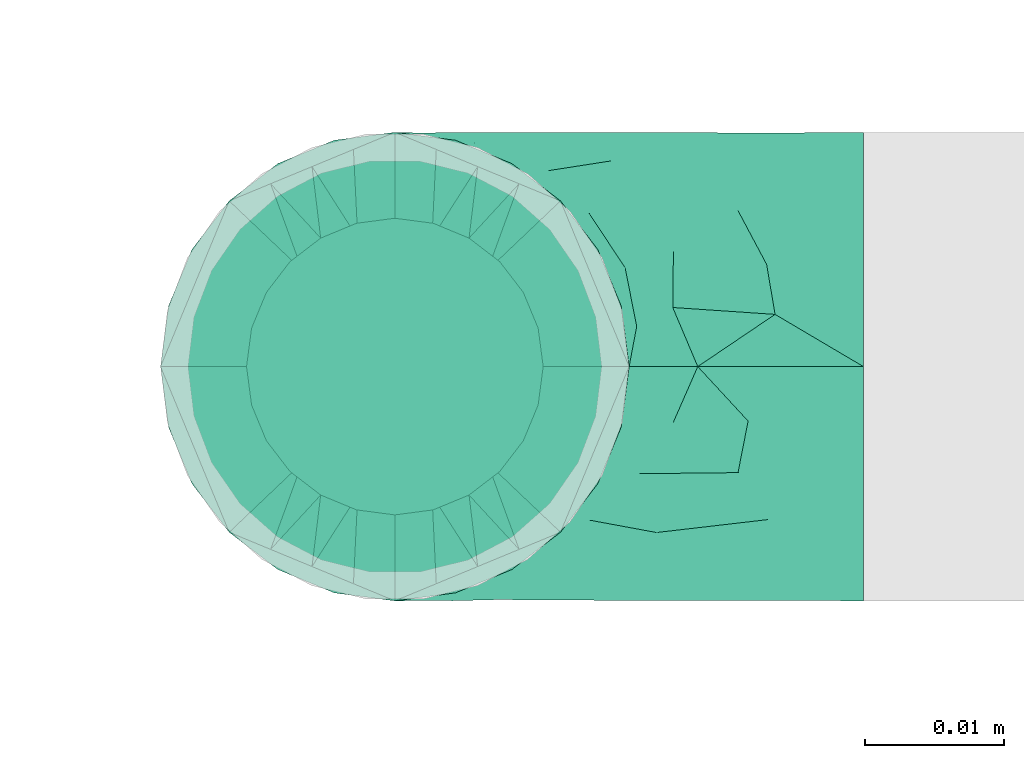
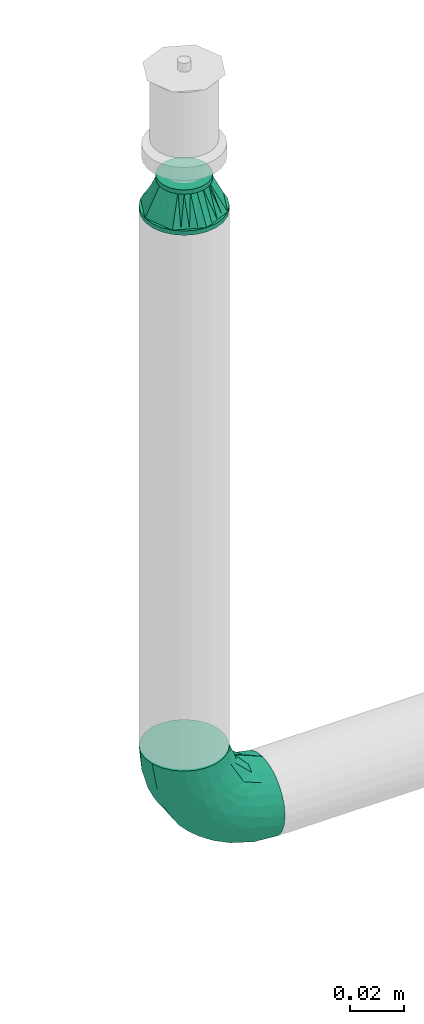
# One storey, part 48 of 157: 2 flow fittings.
"""IFC2X3 building model written with IfcOpenShell, lengths in millimetres."""

from ifc_helpers import new_model, entity, si_unit, converted_unit, derived_unit, direction, frame, origin_with_axes, place, context, subcontext, project, spatial, open_shell, surface_model, source, transform, mapped, type_object, element, save


model = new_model("IFC2X3")

# Units and contexts
model_context = context("Model", 3, precision=0.01, world=frame((0.0, 4.29681676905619e-09, 0.0)), true_north=direction((4.01073788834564e-13, 1.0)))
plan_context = context("Plan", 3, precision=0.01, world=frame((0.0, 4.29681676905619e-09, 0.0)), true_north=direction((4.01073788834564e-13, 1.0)))
body_context = subcontext(model_context, "Body", "Model", "MODEL_VIEW")
ifc_project = project(units=[converted_unit("PLANEANGLEUNIT", "DEGREE", entity("IfcPositiveLengthMeasure", 0.0174532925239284), si_unit("PLANEANGLEUNIT", "RADIAN"), dimensions=[0, 0, 0, 0, 0, 0, 0]), si_unit("AREAUNIT", "SQUARE_METRE"), si_unit("LENGTHUNIT", "METRE", prefix="MILLI"), si_unit("MASSUNIT", "GRAM", prefix="KILO"), si_unit("POWERUNIT", "WATT"), si_unit("PRESSUREUNIT", "PASCAL"), si_unit("FORCEUNIT", "NEWTON", prefix="KILO"), si_unit("ELECTRICCURRENTUNIT", "AMPERE"), si_unit("THERMODYNAMICTEMPERATUREUNIT", "DEGREE_CELSIUS"), si_unit("TIMEUNIT", "SECOND"), si_unit("VOLUMEUNIT", "CUBIC_METRE"), derived_unit("LINEARVELOCITYUNIT", [(si_unit("LENGTHUNIT", "METRE"), 1), (si_unit("TIMEUNIT", "SECOND"), -1)]), derived_unit("VOLUMETRICFLOWRATEUNIT", [(si_unit("VOLUMEUNIT", "CUBIC_METRE"), 1), (si_unit("TIMEUNIT", "SECOND"), -1)]), derived_unit("THERMALTRANSMITTANCEUNIT", [(si_unit("POWERUNIT", "WATT"), 1), (si_unit("THERMODYNAMICTEMPERATUREUNIT", "KELVIN"), -1), (si_unit("AREAUNIT", "SQUARE_METRE"), -1)])], contexts=[model_context, plan_context])

# Site, building, storey
site_placement = place(None, frame((0.0, -4.29681676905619e-09, 0.0), z_axis=(0.0, 0.0, 1.0), x_axis=(1.0, 0.0, 0.0)))
site = spatial("IfcSite", under=ifc_project, at=site_placement, CompositionType="ELEMENT")
building_placement = place(site_placement, frame((0.0, 4.29681676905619e-09, 0.0), z_axis=(0.0, 0.0, 1.0), x_axis=(1.0, 0.0, 0.0)))
building = spatial("IfcBuilding", under=site, at=building_placement, Name="mc-building", CompositionType="ELEMENT")
storey_placement = place(building_placement, frame((0.0, 0.0, 204000.0), z_axis=(0.0, 0.0, 1.0), x_axis=(1.0, 0.0, 0.0)))
storey = spatial("IfcBuildingStorey", under=building, at=storey_placement, Name="Nivå D", CompositionType="ELEMENT", Elevation=204000.0)

# Flow fittings
pipe_fitting_type_1 = type_object("IfcPipeFittingType", Name="magi_pipe_fe_elbow_short_001", PredefinedType="BEND")
shared_shape_1 = source(origin_with_axes(), body_context, "Body", "SurfaceModel", [
    surface_model("IfcShellBasedSurfaceModel", [(-33.8, 8.45, -14.63583), (-33.8, 4.37404, -16.32415), (-33.8, 11.9501, -11.9501), (-33.8, -11.9501, -11.9501), (-33.8, -14.63583, -8.45), (-33.8, -8.45, -14.63583), (-33.8, 0.0, -16.9), (-33.8, -4.37404, -16.32415), (-33.8, -4.37404, 16.32415), (-33.8, 0.0, 16.9), (-33.8, -8.45, 14.63583), (-33.8, 16.32415, -4.37404), (-33.8, 14.63583, -8.45), (-33.8, -16.32415, -4.37404), (-33.8, -16.9, 0.0), (-33.8, -16.32415, 4.37404), (-33.8, 11.9501, 11.9501), (-33.8, 14.63583, 8.45), (-33.8, 16.32415, 4.37404), (-33.8, 4.37404, 16.32415), (-33.8, 8.45, 14.63583), (-33.8, -14.63583, 8.45), (-33.8, -11.9501, 11.9501), (-33.8, 16.9, 0.0), (-11.9501, 33.8, -11.9501), (0.0, 33.8, -16.9), (-4.37404, 33.8, -16.32415), (-8.45, 33.8, -14.63583), (-14.63583, 33.8, -8.45), (-16.32415, 33.8, -4.37404), (14.63583, 33.8, -8.45), (8.45, 33.8, 14.63583), (16.32415, 33.8, -4.37404), (8.45, 33.8, -14.63583), (11.9501, 33.8, -11.9501), (4.37404, 33.8, -16.32415), (16.32415, 33.8, 4.37404), (16.9, 33.8, 0.0), (-11.9501, 33.8, 11.9501), (-16.32415, 33.8, 4.37404), (-14.63583, 33.8, 8.45), (-8.45, 33.8, 14.63583), (-4.37404, 33.8, 16.32415), (11.9501, 33.8, 11.9501), (14.63583, 33.8, 8.45), (0.0, 33.8, 16.9), (4.37404, 33.8, 16.32415), (-16.9, 33.8, 0.0), (-24.79389, -13.12945, 9.48721), (-22.19287, -9.75018, 12.59315), (-24.09897, -14.97035, 0.0), (-14.93934, -10.76256, 8.5297), (-22.46095, -14.75051, 5.27077), (14.75051, 22.46094, 5.27077), (11.9251, 13.23888, 4.33236), (13.04069, 14.39795, 0.0), (7.71387, 13.68847, 11.55891), (9.75018, 22.19287, 12.59315), (4.10169, 13.0571, 14.04018), (-24.84007, -6.39063, 15.2048), (-25.81779, -2.23879, 16.61097), (-23.66549, 2.59054, 16.87119), (-26.50418, 14.06512, 11.08152), (-24.21253, 17.66365, 7.72657), (-29.58514, 15.86957, 7.00283), (-6.17382, -7.5455, 0.0), (-13.23888, -11.9251, 4.33236), (-14.39795, -13.04069, 0.0), (-17.81434, 18.87373, 11.97104), (-6.30846, 29.15138, 15.82987), (-2.31622, 25.28002, 16.85849), (-29.23923, 10.23435, 13.77053), (-1.45439, -2.85688, 7.61475), (-0.28326, 0.34872, 10.09509), (-5.74484, -4.04709, 10.4122), (-4.41137, 11.31918, 16.59407), (-8.39727, 3.10034, 15.7812), (-1.72649, 9.1306, 15.53089), (-17.39909, 24.75344, 7.64977), (-26.19233, 20.0512, 0.0), (-28.14518, 17.29657, 4.25857), (-26.05147, 6.6281, 15.96447), (-5.87354, 16.61944, 16.86968), (-12.51807, 12.51807, 16.48937), (-10.06312, 7.38516, 16.81295), (-3.01882, 3.01882, 13.81718), (-13.0571, -4.10169, 14.04018), (-16.82553, -0.15166, 16.38038), (10.76256, 14.93934, 8.5297), (13.12945, 24.79389, 9.48721), (6.39063, 24.84007, 15.2048), (2.23879, 25.81779, 16.61097), (-13.68847, -7.71387, 11.55891), (14.97035, 24.09897, 0.0), (-7.30894, 22.89991, 16.09489), (-10.67958, 26.17414, 14.008), (-12.78295, 18.26924, 15.06066), (-13.88562, 22.45231, 12.93244), (-18.04944, 15.16501, 14.04434), (-23.11658, 20.08178, 4.02986), (-21.84989, 21.84989, 0.0), (-18.55817, 25.48277, 3.93065), (-13.95142, 26.94732, 11.03289), (-18.57098, 7.23906, 16.59756), (-16.58335, 4.14122, 16.89279), (-17.96666, 11.46709, 15.63151), (-9.84453, 17.54304, 16.18938), (0.15166, 16.82553, 16.38038), (-23.27207, 11.47201, 14.23154), (3.84842, 5.86994, 10.70473), (-8.0212, -7.54413, 7.93275), (1.00345, -2.19508, 4.57414), (5.13203, 3.01004, 5.90201), (5.24161, 1.7543, 2.53265), (8.70457, 7.04947, 3.99182), (-20.0512, 26.19233, 0.0), (8.4852, 8.76699, 7.09296), (-4.55488, -6.72064, 4.90681), (2.05031, -2.05031, 0.0), (7.5455, 6.17382, 0.0), (-26.75399, 2.1369, -16.845), (-14.61995, 24.73803, -11.27736), (-28.45274, -13.45335, -9.81895), (-26.00469, 6.63555, -15.96645), (-23.06726, 20.04573, -4.26202), (-13.80647, -4.26506, -14.17873), (-14.67501, -0.21081, -16.07388), (-6.7902, -0.2828, -13.8478), (-24.53586, 11.08096, -14.13417), (-26.72048, 14.00837, -11.05776), (10.0967, 24.44989, -12.75976), (5.83237, 21.40218, -15.03047), (6.66249, 28.54238, -15.38093), (-20.38182, 15.48705, -12.74596), (12.53268, 21.23441, -9.15363), (12.54494, 15.67504, -5.54878), (9.7522, 12.89279, -8.66343), (-15.65186, 19.64213, -13.01327), (-12.03528, 20.66498, -14.67665), (-15.61907, 15.61906, -14.83879), (-25.56551, -15.26206, 0.0), (-24.65452, -15.12934, -5.50955), (13.45335, 28.45274, -9.81895), (15.12934, 24.65452, -5.50955), (-7.35442, -8.31014, -5.65563), (-15.67504, -12.54494, -5.54878), (-24.44989, -10.0967, -12.75976), (0.16522, 0.41303, -9.71728), (-5.70658, -5.33066, -8.89288), (-5.13869, -2.37198, -11.53565), (-21.23441, -12.53268, -9.15363), (0.71146, 7.93863, -14.09382), (0.21081, 14.67501, -16.07388), (3.49291, 14.42772, -14.76381), (-24.89911, -2.13088, -16.591), (-28.54238, -6.66249, -15.38093), (-18.44386, -7.71663, -13.26957), (2.13088, 24.89911, -16.591), (-28.64342, 17.44413, -2.89318), (1.70017, -1.28722, -5.09504), (-16.57067, 26.81947, -7.36596), (-17.69055, 27.4263, -3.76405), (-12.89279, -9.7522, -8.66343), (-5.96611, 5.96611, -15.95814), (-20.53709, 20.09345, -8.28985), (-2.1369, 26.75399, -16.845), (-6.89872, 24.58781, -16.02578), (-10.60739, 26.53157, -13.98044), (-21.40218, -5.83237, -15.03047), (2.93192, 5.89627, -11.55917), (6.89393, 12.61842, -11.82233), (5.58056, 5.95325, -8.79455), (-3.99512, 18.61798, -16.89635), (8.31014, 7.35442, -5.65563), (-9.1383, 9.86148, -16.89041), (-9.99983, 16.02119, -16.39699), (-16.68576, 9.78031, -16.34199), (-27.01915, 16.61158, -7.12979), (15.26206, 25.56551, 0.0), (-18.61798, 3.99512, -16.89635), (-19.37495, 27.82495, 0.0), (-12.61842, -6.89393, -11.82233), (-18.84705, 19.14018, -10.96545)], [open_shell([[[0, 1, 2]], [[3, 4, 5]], [[6, 7, 5]], [[8, 9, 10]], [[1, 6, 2]], [[11, 12, 2]], [[4, 2, 6]], [[2, 13, 10]], [[5, 4, 6]], [[2, 4, 13]], [[14, 15, 13]], [[11, 2, 16]], [[11, 17, 18]], [[11, 16, 17]], [[19, 20, 16]], [[16, 2, 10]], [[19, 16, 10]], [[21, 22, 15]], [[22, 13, 15]], [[22, 10, 13]], [[10, 9, 19]], [[11, 18, 23]], [[24, 25, 26]], [[24, 26, 27]], [[24, 28, 29]], [[25, 24, 30]], [[31, 32, 24]], [[33, 30, 34]], [[33, 35, 25]], [[25, 30, 33]], [[32, 30, 24]], [[32, 36, 37]], [[38, 24, 29]], [[39, 40, 29]], [[40, 38, 29]], [[38, 41, 42]], [[38, 31, 24]], [[31, 38, 42]], [[36, 43, 44]], [[36, 32, 43]], [[31, 45, 46]], [[32, 31, 43]], [[42, 45, 31]], [[39, 29, 47]], [[22, 48, 49]], [[15, 14, 50]], [[51, 48, 52]], [[53, 54, 55]], [[48, 22, 21]], [[15, 52, 21]], [[56, 57, 58]], [[49, 10, 22]], [[49, 59, 10]], [[9, 60, 61]], [[62, 63, 64]], [[65, 66, 67]], [[57, 43, 31]], [[62, 68, 63]], [[42, 69, 70]], [[20, 71, 16]], [[8, 60, 9]], [[72, 73, 74]], [[75, 76, 77]], [[16, 62, 17]], [[40, 39, 78]], [[79, 23, 80]], [[64, 18, 17]], [[9, 61, 19]], [[19, 81, 20]], [[82, 83, 84]], [[74, 85, 86]], [[59, 86, 87]], [[88, 89, 57]], [[90, 31, 46]], [[44, 53, 36]], [[46, 45, 91]], [[54, 53, 88]], [[44, 89, 53]], [[92, 86, 49]], [[89, 44, 43]], [[10, 59, 8]], [[53, 55, 93]], [[93, 36, 53]], [[66, 52, 67]], [[94, 82, 70]], [[95, 96, 94]], [[97, 98, 96]], [[79, 99, 100]], [[41, 38, 95]], [[101, 100, 99]], [[68, 78, 63]], [[42, 41, 69]], [[23, 18, 80]], [[95, 94, 69]], [[78, 101, 99]], [[38, 102, 95]], [[70, 45, 42]], [[97, 95, 102]], [[15, 50, 52]], [[90, 57, 31]], [[57, 90, 58]], [[81, 19, 61]], [[103, 104, 84]], [[105, 81, 103]], [[38, 40, 102]], [[106, 96, 83]], [[94, 106, 82]], [[91, 70, 107]], [[71, 62, 16]], [[62, 108, 98]], [[86, 59, 49]], [[67, 52, 50]], [[60, 59, 87]], [[92, 49, 51]], [[86, 85, 76]], [[91, 90, 46]], [[37, 36, 93]], [[107, 77, 58]], [[107, 58, 90]], [[58, 85, 109]], [[110, 74, 92]], [[72, 74, 110]], [[66, 51, 52]], [[72, 111, 112]], [[113, 114, 112]], [[56, 88, 57]], [[52, 48, 21]], [[49, 48, 51]], [[57, 89, 43]], [[53, 89, 88]], [[103, 81, 61]], [[71, 81, 108]], [[18, 64, 80]], [[63, 78, 99]], [[47, 115, 101]], [[101, 115, 100]], [[40, 78, 102]], [[68, 102, 78]], [[97, 96, 95]], [[105, 98, 108]], [[103, 84, 83]], [[107, 70, 82]], [[76, 84, 87]], [[82, 84, 75]], [[70, 91, 45]], [[90, 91, 107]], [[59, 60, 8]], [[61, 60, 87]], [[73, 85, 74]], [[109, 112, 116]], [[103, 61, 104]], [[105, 103, 83]], [[96, 105, 83]], [[81, 105, 108]], [[96, 98, 105]], [[62, 98, 68]], [[61, 87, 104]], [[87, 84, 104]], [[86, 76, 87]], [[77, 76, 85]], [[58, 77, 85]], [[75, 77, 107]], [[82, 75, 107]], [[76, 75, 84]], [[81, 71, 20]], [[62, 71, 108]], [[95, 69, 41]], [[70, 69, 94]], [[62, 64, 17]], [[80, 63, 99]], [[63, 80, 64]], [[80, 99, 79]], [[66, 65, 117]], [[110, 66, 117]], [[112, 114, 116]], [[118, 117, 65]], [[110, 92, 51]], [[112, 111, 113]], [[119, 55, 54]], [[74, 86, 92]], [[58, 109, 56]], [[116, 56, 109]], [[66, 110, 51]], [[72, 110, 117]], [[111, 72, 117]], [[73, 112, 109]], [[117, 118, 111]], [[113, 111, 118]], [[118, 119, 113]], [[114, 119, 54]], [[119, 114, 113]], [[116, 54, 88]], [[54, 116, 114]], [[116, 88, 56]], [[112, 73, 72]], [[85, 73, 109]], [[78, 39, 101]], [[47, 101, 39]], [[102, 68, 97]], [[97, 68, 98]], [[82, 106, 83]], [[94, 96, 106]], [[1, 120, 6]], [[28, 24, 121]], [[3, 122, 4]], [[0, 123, 1]], [[100, 124, 79]], [[125, 126, 127]], [[128, 2, 129]], [[130, 131, 132]], [[128, 129, 133]], [[134, 135, 136]], [[137, 138, 139]], [[128, 0, 2]], [[67, 140, 141]], [[134, 142, 143]], [[141, 13, 4]], [[144, 65, 145]], [[146, 3, 5]], [[147, 148, 149]], [[145, 141, 150]], [[151, 152, 153]], [[154, 7, 6]], [[5, 155, 146]], [[150, 146, 156]], [[155, 5, 7]], [[143, 135, 134]], [[35, 157, 25]], [[23, 79, 158]], [[148, 159, 144]], [[160, 161, 29]], [[145, 162, 144]], [[163, 152, 151]], [[29, 28, 160]], [[121, 164, 160]], [[33, 34, 130]], [[25, 165, 26]], [[26, 165, 166]], [[142, 34, 30]], [[24, 27, 167]], [[124, 161, 164]], [[157, 35, 132]], [[155, 154, 168]], [[123, 0, 128]], [[169, 170, 171]], [[172, 157, 152]], [[26, 166, 27]], [[132, 35, 33]], [[142, 130, 34]], [[168, 154, 126]], [[136, 135, 173]], [[133, 137, 139]], [[2, 12, 129]], [[170, 131, 130]], [[30, 32, 143]], [[172, 174, 175]], [[176, 123, 128]], [[158, 177, 11]], [[135, 55, 119]], [[167, 27, 166]], [[175, 166, 172]], [[137, 167, 138]], [[122, 141, 4]], [[140, 14, 13]], [[32, 37, 178]], [[170, 130, 134]], [[152, 157, 131]], [[165, 157, 172]], [[153, 170, 151]], [[152, 163, 174]], [[168, 125, 156]], [[122, 146, 150]], [[120, 154, 6]], [[179, 174, 126]], [[179, 126, 154]], [[126, 163, 127]], [[162, 145, 150]], [[140, 13, 141]], [[32, 178, 143]], [[55, 143, 178]], [[177, 129, 12]], [[128, 133, 139]], [[176, 128, 139]], [[120, 123, 179]], [[121, 160, 28]], [[161, 100, 180]], [[166, 175, 138]], [[121, 24, 167]], [[161, 47, 29]], [[79, 124, 158]], [[124, 164, 177]], [[161, 124, 100]], [[136, 171, 170]], [[127, 163, 151]], [[147, 171, 159]], [[148, 144, 162]], [[127, 151, 169]], [[127, 181, 125]], [[129, 177, 164]], [[12, 11, 177]], [[159, 65, 144]], [[67, 141, 145]], [[143, 55, 135]], [[135, 119, 173]], [[123, 120, 1]], [[154, 120, 179]], [[157, 165, 25]], [[166, 165, 172]], [[172, 152, 174]], [[176, 139, 175]], [[126, 174, 163]], [[176, 174, 179]], [[174, 176, 175]], [[123, 176, 179]], [[150, 181, 162]], [[127, 149, 181]], [[181, 148, 162]], [[159, 148, 147]], [[171, 136, 173]], [[170, 134, 136]], [[159, 171, 173]], [[171, 147, 169]], [[169, 147, 149]], [[151, 170, 169]], [[164, 182, 129]], [[182, 121, 137]], [[181, 149, 148]], [[169, 149, 127]], [[182, 137, 133]], [[167, 137, 121]], [[166, 138, 167]], [[175, 139, 138]], [[129, 182, 133]], [[121, 182, 164]], [[161, 160, 164]], [[47, 161, 180]], [[177, 158, 124]], [[23, 158, 11]], [[130, 132, 33]], [[157, 132, 131]], [[143, 142, 30]], [[130, 142, 134]], [[154, 155, 7]], [[146, 155, 168]], [[146, 122, 3]], [[141, 122, 150]], [[152, 131, 153]], [[159, 119, 118]], [[67, 145, 65]], [[170, 153, 131]], [[119, 159, 173]], [[159, 118, 65]], [[156, 125, 181]], [[126, 125, 168]], [[150, 156, 181]], [[168, 156, 146]]])]),
])
flow_fitting_1_placement = place(storey_placement, frame((530440.35, 407221.65, 2880.0), z_axis=(0.0, -1.0, 0.0), x_axis=(0.0, 0.0, -1.0)))
element("IfcFlowFitting", 1, at=flow_fitting_1_placement, inside=storey, type_object=pipe_fitting_type_1, Name="magi_pipe_fe_elbow_short_001", context=body_context, shape_type="MappedRepresentation", body=[
    mapped(shared_shape_1, transform((0.0, 0.0, 0.0), scale=1.0)),
])
pipe_fitting_type_2 = type_object("IfcPipeFittingType", Name="magi_pipe_fe_reducer_centric_short_NOR", PredefinedType="TRANSITION")
shared_shape_2 = source(origin_with_axes(), body_context, "Body", "SurfaceModel", [
    surface_model("IfcShellBasedSurfaceModel", [(-2.0, -7.56604, -7.56604), (-2.0, -10.33541, -2.76936), (-2.0, -5.35, -9.26647), (-2.0, 5.35, -9.26647), (-2.0, 10.33541, -2.76936), (-2.0, 7.56604, -7.56604), (12.4, 11.9501, 11.9501), (12.4, 0.0, 16.9), (12.4, 11.9501, -11.9501), (12.4, 16.9, 0.0), (0.0, -10.7, 0.0), (0.0, -5.35, 9.26647), (0.0, -5.35, -9.26647), (0.0, 10.7, 0.0), (12.4, 15.66253, -2.98753), (12.4, 8.96258, -13.18758), (0.0, 6.6875, -6.94985), (12.4, -15.66253, -2.98753), (12.4, -16.9, 0.0), (12.4, 5.97505, -14.42505), (0.0, 5.35, -9.26647), (12.4, 14.42505, -5.97505), (0.0, 8.025, -4.63324), (0.0, 9.3625, -2.31662), (0.0, -9.3625, -2.31662), (0.0, -8.025, -4.63324), (12.4, -14.42505, -5.97505), (12.4, 13.18758, -8.96258), (12.4, -13.18758, -8.96258), (12.4, -11.9501, -11.9501), (0.0, -6.6875, -6.94985), (12.4, -8.96258, -13.18758), (12.4, -5.97505, -14.42505), (12.4, -15.66253, 2.98753), (12.4, -8.96258, 13.18758), (0.0, -6.6875, 6.94985), (12.4, -11.9501, 11.9501), (12.4, 15.66253, 2.98753), (12.4, -5.97505, 14.42505), (12.4, -14.42505, 5.97505), (0.0, -8.025, 4.63324), (0.0, -9.3625, 2.31662), (0.0, 9.3625, 2.31662), (0.0, 8.025, 4.63324), (12.4, 14.42505, 5.97505), (12.4, -13.18758, 8.96258), (12.4, 13.18758, 8.96258), (0.0, 6.6875, 6.94985), (12.4, 8.96258, 13.18758), (0.0, 5.35, 9.26647), (12.4, 5.97505, 14.42505), (14.4, 4.37404, -16.32415), (14.4, 8.45, -14.63583), (14.4, 11.9501, -11.9501), (14.4, -8.45, -14.63583), (14.4, 16.32415, -4.37404), (14.4, 16.32415, 4.37404), (14.4, 14.63583, -8.45), (14.4, 0.0, -16.9), (14.4, -4.37404, -16.32415), (14.4, -11.9501, -11.9501), (14.4, -16.32415, -4.37404), (14.4, -14.63583, -8.45), (14.4, -16.32415, 4.37404), (14.4, 16.9, 0.0), (14.4, 14.63583, 8.45), (14.4, 11.9501, 11.9501), (14.4, 4.37404, 16.32415), (14.4, 8.45, 14.63583), (14.4, 0.0, 16.9), (14.4, -14.63583, 8.45), (14.4, -16.9, 0.0), (14.4, -8.45, 14.63583), (14.4, -11.9501, 11.9501), (14.4, -4.37404, 16.32415), (12.4, 4.37404, 16.32415), (12.4, -14.63583, 8.45), (12.4, 16.32415, 4.37404), (12.4, 8.45, 14.63583), (12.4, 14.63583, 8.45), (12.4, -8.45, 14.63583), (12.4, -4.37404, 16.32415), (12.4, -16.32415, 4.37404), (12.4, -16.32415, -4.37404), (12.4, -8.45, -14.63583), (12.4, 16.32415, -4.37404), (12.4, 14.63583, -8.45), (12.4, 8.45, -14.63583), (12.4, 4.37404, -16.32415), (12.4, 0.0, -16.9), (12.4, -14.63583, -8.45), (12.4, -4.37404, -16.32415), (-2.0, 2.76936, 10.33541), (-2.0, 0.0, 10.7), (-2.0, 5.35, 9.26647), (-2.0, 7.56604, 7.56604), (-2.0, 9.26647, 5.35), (-2.0, 10.33541, 2.76936), (-2.0, -10.33541, 2.76936), (-2.0, -2.76936, 10.33541), (-2.0, -7.56604, 7.56604), (-2.0, -5.35, 9.26647), (-2.0, -9.26647, 5.35), (-2.0, -10.7, 0.0), (-2.0, 9.26647, -5.35), (-2.0, 2.76936, -10.33541), (-2.0, -9.26647, -5.35), (-2.0, 0.0, -10.7), (-2.0, -2.76936, -10.33541), (-2.0, 10.7, 0.0), (0.0, 0.0, -10.7), (0.0, 2.76936, -10.33541), (0.0, 10.33541, -2.76936), (0.0, 7.56604, -7.56604), (0.0, -10.33541, -2.76936), (0.0, 9.26647, -5.35), (0.0, 0.0, 10.7), (0.0, -2.76936, -10.33541), (0.0, -7.56604, -7.56604), (0.0, -9.26647, -5.35), (0.0, 10.33541, 2.76936), (0.0, 9.26647, 5.35), (0.0, 7.56604, 7.56604), (0.0, 2.76936, 10.33541), (0.0, -7.56604, 7.56604), (0.0, -10.33541, 2.76936), (0.0, -9.26647, 5.35), (0.0, -2.76936, 10.33541), (0.0, 2.675, -9.26647), (0.0, -2.675, -9.26647), (12.4, 2.98753, -15.66253), (0.0, 0.0, -9.26647), (12.4, -2.98753, -15.66253), (0.0, -2.675, 9.26647), (0.0, 2.675, 9.26647), (12.4, -2.98753, 15.66253), (0.0, 0.0, 9.26647), (12.4, 2.98753, 15.66253)], [open_shell([[[0, 1, 2]], [[3, 4, 5]], [[6, 7, 8]], [[8, 9, 6]], [[10, 11, 12]], [[13, 9, 14]], [[15, 16, 8]], [[17, 18, 10]], [[15, 19, 20]], [[21, 22, 23]], [[24, 25, 26]], [[22, 21, 27]], [[28, 26, 25]], [[29, 30, 31]], [[12, 32, 31]], [[10, 18, 33]], [[34, 35, 36]], [[37, 9, 13]], [[34, 38, 11]], [[39, 40, 41]], [[42, 43, 44]], [[40, 39, 45]], [[46, 44, 43]], [[6, 47, 48]], [[49, 50, 48]], [[51, 52, 53]], [[54, 51, 53]], [[53, 55, 56]], [[55, 53, 57]], [[53, 56, 54]], [[58, 54, 59]], [[58, 51, 54]], [[60, 61, 62]], [[61, 60, 54]], [[54, 63, 61]], [[56, 55, 64]], [[56, 65, 66]], [[56, 66, 67]], [[67, 63, 54]], [[67, 66, 68]], [[63, 67, 69]], [[69, 70, 63]], [[71, 61, 63]], [[70, 72, 73]], [[70, 69, 72]], [[72, 69, 74]], [[54, 56, 67]], [[75, 76, 7]], [[77, 75, 78]], [[6, 79, 77]], [[6, 77, 78]], [[76, 75, 77]], [[80, 76, 36]], [[80, 81, 7]], [[7, 76, 80]], [[82, 76, 77]], [[82, 83, 18]], [[82, 77, 84]], [[77, 85, 8]], [[8, 85, 86]], [[8, 87, 88]], [[84, 77, 8]], [[88, 89, 8]], [[83, 29, 90]], [[29, 83, 84]], [[84, 89, 91]], [[83, 82, 84]], [[8, 89, 84]], [[85, 77, 9]], [[83, 61, 18]], [[90, 62, 83]], [[54, 29, 84]], [[90, 29, 60]], [[59, 84, 91]], [[83, 62, 61]], [[61, 71, 18]], [[59, 54, 84]], [[60, 29, 54]], [[60, 62, 90]], [[58, 59, 91]], [[91, 89, 58]], [[88, 51, 89]], [[87, 52, 88]], [[57, 8, 86]], [[87, 8, 53]], [[55, 86, 85]], [[87, 53, 52]], [[52, 51, 88]], [[64, 55, 85]], [[57, 86, 55]], [[57, 53, 8]], [[9, 64, 85]], [[89, 51, 58]], [[77, 56, 9]], [[79, 65, 77]], [[68, 6, 78]], [[79, 6, 66]], [[67, 78, 75]], [[77, 65, 56]], [[56, 64, 9]], [[67, 68, 78]], [[66, 6, 68]], [[66, 65, 79]], [[69, 67, 75]], [[75, 7, 69]], [[81, 74, 7]], [[80, 72, 81]], [[70, 36, 76]], [[80, 36, 73]], [[63, 76, 82]], [[80, 73, 72]], [[72, 74, 81]], [[71, 63, 82]], [[70, 76, 63]], [[70, 73, 36]], [[18, 71, 82]], [[7, 74, 69]], [[92, 1, 93]], [[94, 1, 92]], [[95, 96, 97]], [[95, 97, 94]], [[98, 93, 1]], [[99, 100, 101]], [[99, 93, 100]], [[100, 98, 102]], [[93, 98, 100]], [[98, 1, 103]], [[94, 97, 1]], [[1, 97, 4]], [[5, 4, 104]], [[4, 3, 1]], [[105, 1, 3]], [[1, 0, 106]], [[2, 107, 108]], [[2, 1, 105]], [[105, 107, 2]], [[4, 97, 109]], [[20, 110, 111]], [[112, 20, 113]], [[114, 20, 112]], [[112, 113, 115]], [[116, 114, 112]], [[110, 12, 117]], [[110, 20, 12]], [[118, 114, 119]], [[114, 118, 12]], [[20, 114, 12]], [[112, 13, 120]], [[120, 121, 122]], [[120, 122, 123]], [[116, 112, 123]], [[123, 122, 49]], [[116, 124, 114]], [[125, 124, 126]], [[10, 114, 125]], [[124, 127, 11]], [[125, 114, 124]], [[127, 124, 116]], [[123, 112, 120]], [[1, 114, 103]], [[106, 119, 1]], [[12, 0, 2]], [[106, 0, 118]], [[117, 2, 108]], [[1, 119, 114]], [[114, 10, 103]], [[117, 12, 2]], [[118, 0, 12]], [[118, 119, 106]], [[110, 117, 108]], [[108, 107, 110]], [[105, 111, 107]], [[3, 20, 105]], [[115, 5, 104]], [[3, 5, 113]], [[112, 104, 4]], [[3, 113, 20]], [[20, 111, 105]], [[13, 112, 4]], [[115, 104, 112]], [[115, 113, 5]], [[109, 13, 4]], [[107, 111, 110]], [[97, 120, 109]], [[96, 121, 97]], [[49, 95, 94]], [[96, 95, 122]], [[123, 94, 92]], [[97, 121, 120]], [[120, 13, 109]], [[123, 49, 94]], [[122, 95, 49]], [[122, 121, 96]], [[116, 123, 92]], [[92, 93, 116]], [[99, 127, 93]], [[101, 11, 99]], [[126, 100, 102]], [[101, 100, 124]], [[125, 102, 98]], [[101, 124, 11]], [[11, 127, 99]], [[10, 125, 98]], [[126, 102, 125]], [[126, 124, 100]], [[103, 10, 98]], [[93, 127, 116]], [[18, 7, 36]], [[18, 29, 8]], [[89, 8, 29]], [[18, 8, 7]], [[13, 11, 49]], [[13, 20, 12]], [[13, 12, 11]], [[24, 26, 17]], [[10, 24, 17]], [[16, 15, 20]], [[30, 12, 31]], [[23, 14, 21]], [[19, 128, 20]], [[27, 8, 16]], [[32, 12, 129]], [[30, 28, 25]], [[130, 131, 128]], [[129, 132, 32]], [[16, 22, 27]], [[13, 14, 23]], [[128, 19, 130]], [[130, 89, 131]], [[131, 132, 129]], [[89, 132, 131]], [[28, 30, 29]], [[42, 44, 37]], [[13, 42, 37]], [[35, 34, 11]], [[47, 49, 48]], [[41, 33, 39]], [[38, 133, 11]], [[45, 36, 35]], [[50, 49, 134]], [[47, 46, 43]], [[135, 136, 133]], [[134, 137, 50]], [[35, 40, 45]], [[10, 33, 41]], [[133, 38, 135]], [[135, 7, 136]], [[136, 137, 134]], [[7, 137, 136]], [[46, 47, 6]]])]),
])
flow_fitting_2_placement = place(storey_placement, frame((530440.35, 407221.65, 3172.54800000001), z_axis=(0.0, -1.0, 0.0), x_axis=(0.0, 0.0, -1.0)))
element("IfcFlowFitting", 2, at=flow_fitting_2_placement, inside=storey, type_object=pipe_fitting_type_2, Name="magi_pipe_fe_reducer_centric_short_NOR", context=body_context, shape_type="MappedRepresentation", body=[
    mapped(shared_shape_2, transform((0.0, 0.0, 0.0), scale=1.0)),
])

save(model, "model.ifc")
